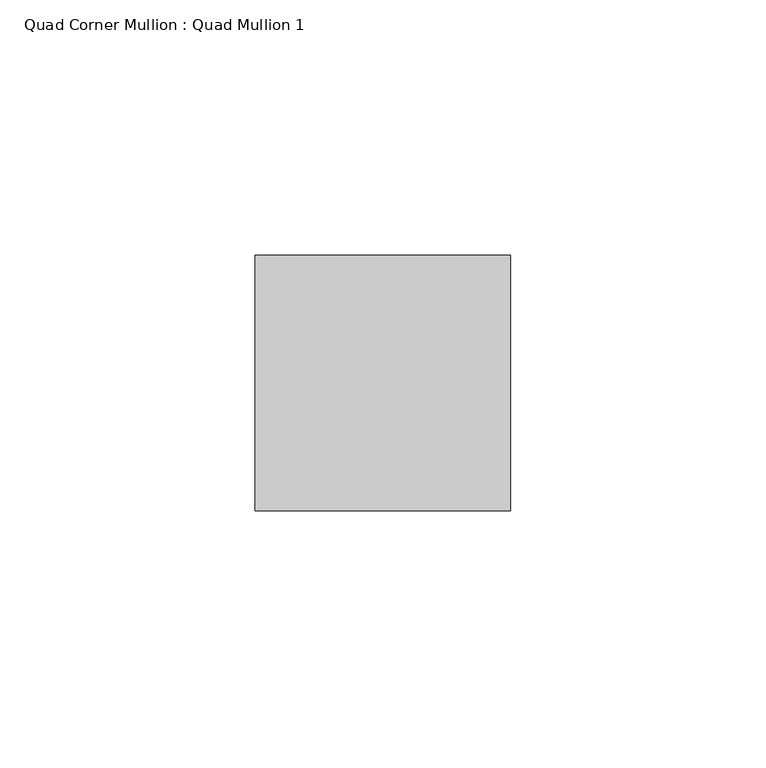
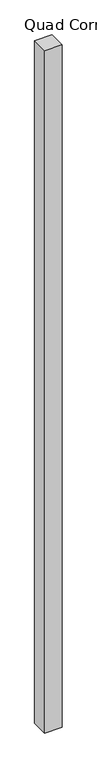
"""IFC4 building model written with IfcOpenShell, lengths in millimetres: member geometry, Quad Corner Mullion : Quad Mullion 1."""

import ifcopenshell
import ifcopenshell.guid

model = None  # the IFC model being written
_history = None  # IfcOwnerHistory: only IFC2X3 demands one
_inside = {}  # id of a spatial element -> (the spatial element, [elements in it])
_under = {}  # id of a project, library or spatial element -> (it, [spatial elements below it])
_declared = {}  # id of a project -> (the project, [libraries it declares])
_typed = {}  # id of a type object -> (the type object, [elements of that type])
_made_of = {}  # id of a material, layer set ... -> (it, [elements and type objects made of it])


def new_model(schema):
    """Start an empty IFC model of exactly this schema.

    Asked for "IFC4X3", IfcOpenShell would pick the latest addendum, in which some entities
    have other attributes; the version numbers below select the first issue.
    IFC2X3 requires an IfcOwnerHistory on every rooted entity: one is made here for all.
    """
    global model, _history
    if schema == "IFC4X3":
        model = ifcopenshell.file(schema_version=(4, 3, 0, 0))
    else:
        model = ifcopenshell.file(schema=schema)
    _inside.clear()
    _under.clear()
    _declared.clear()
    _typed.clear()
    _made_of.clear()
    _history = None
    if model.schema == "IFC2X3":
        org = make("IfcOrganization", Name="unknown")
        user = make(
            "IfcPersonAndOrganization",
            ThePerson=make("IfcPerson", FamilyName="unknown"),
            TheOrganization=org,
        )
        app = make(
            "IfcApplication",
            ApplicationDeveloper=org,
            Version="unknown",
            ApplicationFullName="unknown",
            ApplicationIdentifier="unknown",
        )
        _history = make(
            "IfcOwnerHistory",
            OwningUser=user,
            OwningApplication=app,
            ChangeAction="ADDED",
            CreationDate=0,
        )
    return model


def make(cls, **values):
    """One entity of the class cls with the attributes given. An attribute that is None is left unset."""
    return model.create_entity(
        cls, **{name: value for name, value in values.items() if value is not None}
    )


def rooted(cls, **values):
    """An entity with a GlobalId (a new one), such as an element, a storey or a relation."""
    return make(cls, GlobalId=ifcopenshell.guid.new(), OwnerHistory=_history, **values)


def si_unit(unit_type, name, prefix=None):
    """IfcSIUnit, for example si_unit("LENGTHUNIT", "METRE", prefix="MILLI")."""
    return make("IfcSIUnit", UnitType=unit_type, Prefix=prefix, Name=name)


def assignment(units):
    """IfcUnitAssignment: the units of a project."""
    return None if units is None else make("IfcUnitAssignment", Units=units)


def point(xyz):
    """IfcCartesianPoint."""
    return None if xyz is None else make("IfcCartesianPoint", Coordinates=xyz)


def direction(xyz):
    """IfcDirection."""
    return None if xyz is None else make("IfcDirection", DirectionRatios=xyz)


def frame(location, z_axis=None, x_axis=None):
    """IfcAxis2Placement3D, a coordinate frame: its origin and axes. An axis left out is left unset."""
    return make(
        "IfcAxis2Placement3D",
        Location=point(location),
        Axis=direction(z_axis),
        RefDirection=direction(x_axis),
    )


def origin():
    """The frame at (0, 0, 0) with its axes left unset."""
    return frame((0.0, 0.0, 0.0))


def place(relative_to, where):
    """IfcLocalPlacement: puts the frame where relative to a parent placement (None: the world)."""
    return make(
        "IfcLocalPlacement", PlacementRelTo=relative_to, RelativePlacement=where
    )


def context(
    kind, dimensions, precision=None, world=None, true_north=None, identifier=None
):
    """IfcGeometricRepresentationContext, for example the 3D "Model" context."""
    return make(
        "IfcGeometricRepresentationContext",
        ContextIdentifier=identifier,
        ContextType=kind,
        CoordinateSpaceDimension=dimensions,
        Precision=precision,
        WorldCoordinateSystem=world,
        TrueNorth=true_north,
    )


def project(units=None, contexts=None):
    """IfcProject with its units and contexts."""
    return rooted(
        "IfcProject",
        Name="project",
        RepresentationContexts=contexts,
        UnitsInContext=assignment(units),
    )


def spatial(cls, under=None, at=None, **own):
    """A site, building, storey or space (cls), placed at a placement, below another one or the project."""
    s = rooted(cls, ObjectPlacement=at, **own)
    if under is not None:
        _under.setdefault(under.id(), (under, []))[1].append(s)
    return s


def polyline(points):
    """IfcPolyline through the points."""
    return make("IfcPolyline", Points=[point(p) for p in points])


def outline(outer, holes=None, kind="AREA"):
    """IfcArbitraryClosedProfileDef: a profile drawn as a closed curve; with holes, ...WithVoids."""
    if holes is None:
        return make("IfcArbitraryClosedProfileDef", ProfileType=kind, OuterCurve=outer)
    return make(
        "IfcArbitraryProfileDefWithVoids",
        ProfileType=kind,
        OuterCurve=outer,
        InnerCurves=holes,
    )


def extrude(swept, where, along, depth):
    """IfcExtrudedAreaSolid: the profile swept, set in the frame where, extruded along a direction by depth."""
    return make(
        "IfcExtrudedAreaSolid",
        SweptArea=swept,
        Position=where,
        ExtrudedDirection=direction(along),
        Depth=depth,
    )


def shape(context_of_items, identifier, shape_type, items):
    """IfcShapeRepresentation: the items that make up one representation, for example the "Body"."""
    return make(
        "IfcShapeRepresentation",
        ContextOfItems=context_of_items,
        RepresentationIdentifier=identifier,
        RepresentationType=shape_type,
        Items=items,
    )


def source(mapping_origin, context_of_items, identifier, shape_type, items):
    """IfcRepresentationMap: a shape defined once, which mapped items show again and again."""
    return make(
        "IfcRepresentationMap",
        MappingOrigin=mapping_origin,
        MappedRepresentation=shape(context_of_items, identifier, shape_type, items),
    )


def transform(
    local_origin,
    x_axis=None,
    y_axis=None,
    z_axis=None,
    scale=None,
    scale2=None,
    scale3=None,
    uniform=True,
):
    """IfcCartesianTransformationOperator3D, or its non-uniform kind. x_axis, y_axis, z_axis: its Axis1, 2, 3."""
    if uniform:
        return make(
            "IfcCartesianTransformationOperator3D",
            Axis1=direction(x_axis),
            Axis2=direction(y_axis),
            LocalOrigin=point(local_origin),
            Scale=scale,
            Axis3=direction(z_axis),
        )
    return make(
        "IfcCartesianTransformationOperator3DnonUniform",
        Axis1=direction(x_axis),
        Axis2=direction(y_axis),
        LocalOrigin=point(local_origin),
        Scale=scale,
        Axis3=direction(z_axis),
        Scale2=scale2,
        Scale3=scale3,
    )


def mapped(mapping_source, mapping_target):
    """IfcMappedItem: shows the shape of a source again, moved by a transform."""
    return make(
        "IfcMappedItem", MappingSource=mapping_source, MappingTarget=mapping_target
    )


def made_of(thing, what):
    """Note that an element or type object is made of a material, layer set ...; save() writes the relation."""
    if what is not None:
        _made_of.setdefault(what.id(), (what, []))[1].append(thing)
    return thing


def element(
    cls,
    number,
    at=None,
    inside=None,
    cuts=None,
    type_object=None,
    material=None,
    context=None,
    identifier="Body",
    shape_type=None,
    held_by="IfcProductDefinitionShape",
    body=None,
    shapes=None,
    **own,
):
    """One element of the class cls, such as IfcWall. Its Tag is "e" and its number.

    at: its placement. inside: the storey or other place that contains it. cuts: it is an
    opening in that element (IfcRelVoidsElement). A single representation is given by context,
    identifier, shape_type and body (its items); several are given by shapes. held_by: the class
    of the entity that holds the representations. save() writes the other relations.
    """
    e = rooted(cls, Tag="e%d" % number, ObjectPlacement=at, **own)
    if body is not None:
        shapes = [shape(context, identifier, shape_type, body)]
    if shapes is not None:
        e.Representation = make(held_by, Representations=shapes)
    if inside is not None:
        _inside.setdefault(inside.id(), (inside, []))[1].append(e)
    if cuts is not None:
        rooted(
            "IfcRelVoidsElement", RelatingBuildingElement=cuts, RelatedOpeningElement=e
        )
    if type_object is not None:
        _typed.setdefault(type_object.id(), (type_object, []))[1].append(e)
    return made_of(e, material)


def aggregate(whole, parts):
    """IfcRelAggregates: a whole, such as a stair, and the parts it consists of."""
    return rooted("IfcRelAggregates", RelatingObject=whole, RelatedObjects=parts)


def save(model, path):
    """Write the relations noted so far, then the file.

    IfcRelAggregates (storeys below a building ...), IfcRelContainedInSpatialStructure (elements
    in a storey), IfcRelDefinesByType, IfcRelAssociatesMaterial and IfcRelDeclares: one each for
    every whole, place, type object, material and project.
    """
    for whole, parts in _under.values():
        aggregate(whole, parts)
    for where, things in _inside.values():
        rooted(
            "IfcRelContainedInSpatialStructure",
            RelatedElements=things,
            RelatingStructure=where,
        )
    for kind, things in _typed.values():
        rooted("IfcRelDefinesByType", RelatedObjects=things, RelatingType=kind)
    for what, things in _made_of.values():
        rooted("IfcRelAssociatesMaterial", RelatedObjects=things, RelatingMaterial=what)
    for by, libraries in _declared.values():
        rooted("IfcRelDeclares", RelatingContext=by, RelatedDefinitions=libraries)
    model.write(path)


def quad_corner_mullion_quad_mullion_1_ea3c28b5(model_context):
    return source(origin(), model_context, "Body", "SweptSolid", [
        extrude(outline(polyline([(25.0, 25.0), (25.0, -25.0), (-25.0, -25.0), (-25.0, 25.0), (25.0, 25.0)])), frame((0.0, 0.0, -2080.0), z_axis=(0.0, 0.0, 1.0), x_axis=(1.0, 0.0, 0.0)), (0.0, 0.0, 1.0), 2080.0),
    ])


if __name__ == "__main__":
    model = new_model("IFC4")
    model_context = context("Model", 3, world=origin())
    ifc_project = project(units=[si_unit("LENGTHUNIT", "METRE", prefix="MILLI")], contexts=[model_context])
    site = spatial("IfcSite", under=ifc_project)
    building = spatial("IfcBuilding", under=site)
    placement = place(None, origin())
    quad_corner_mullion_quad_mullion_1_shape = quad_corner_mullion_quad_mullion_1_ea3c28b5(model_context)
    element("IfcMember", 1, ObjectType="Quad Corner Mullion : Quad Mullion 1", at=placement, inside=building, context=model_context, shape_type="MappedRepresentation", body=[
        mapped(quad_corner_mullion_quad_mullion_1_shape, transform((0.0, 0.0, 0.0), x_axis=(1.0, 0.0, 0.0), y_axis=(0.0, 1.0, 0.0), z_axis=(0.0, 0.0, 1.0))),
    ])
    save(model, "model.ifc")
